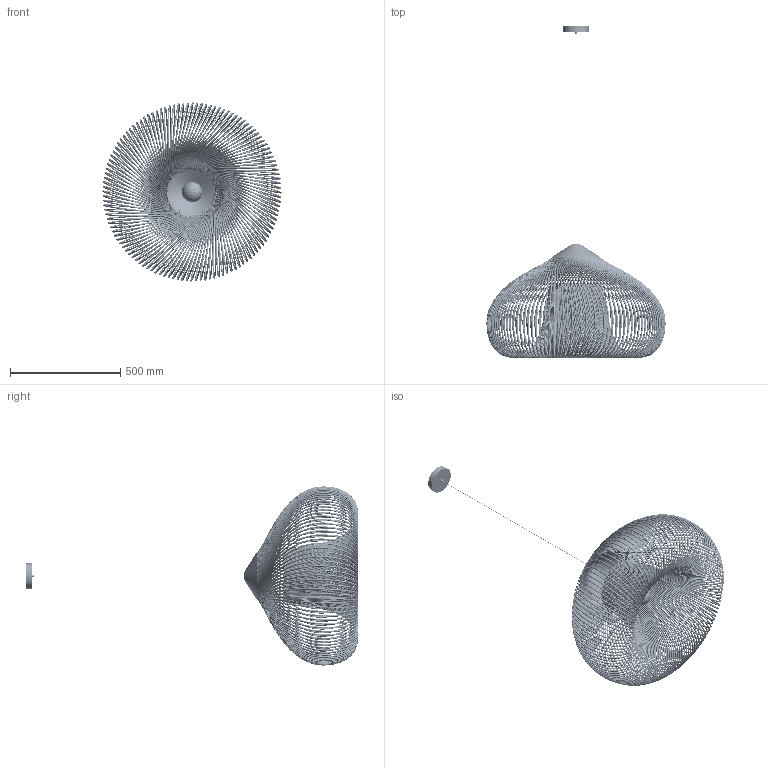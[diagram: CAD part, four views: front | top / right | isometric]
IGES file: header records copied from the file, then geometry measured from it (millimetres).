
Start section: SolidWorks IGES file using analytic representation for surfaces
Global section: file name: F:\燠隴矨\3D\2025-4\Braided Rattan Pendant Lamp-ModelA-D80cm.IGS,15; native system: HSolidWorks 2022; preprocessor: SolidWorks 2022; author: MyPC; date: 250409.142446; units: millimetre
Bounding box: 813.2 x 1506.52 x 813.2 mm (x, y, z)
Surface area: 3051723.3 mm2 (no closed solid volume)
Topology: 0 solids, 0 shells, 583 faces, 9902 edges, 9899 vertices
Faces by surface type: bspline 521, revolution 62
